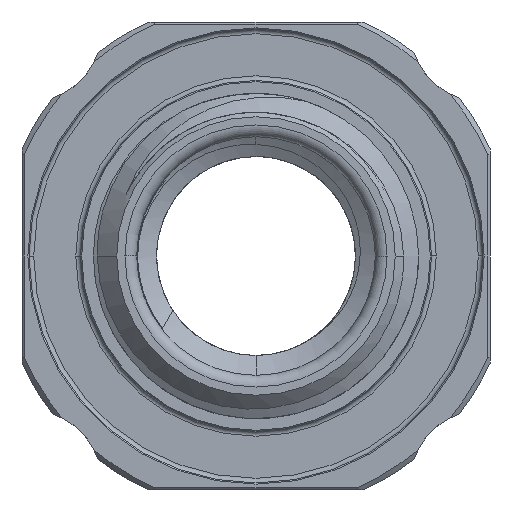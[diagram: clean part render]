
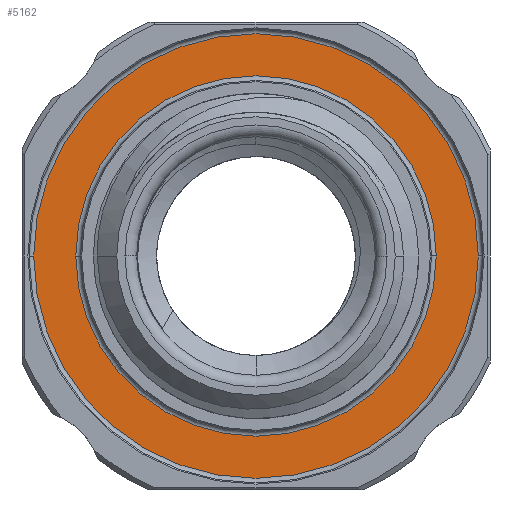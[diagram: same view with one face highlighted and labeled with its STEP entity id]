
A CAD part, front view. The second image highlights one B-rep face of the part: STEP entity #5162.
In plain terms, the highlighted planar face has unit normal (0, -1, 0).
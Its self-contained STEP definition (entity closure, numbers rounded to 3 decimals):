
#61 = CIRCLE ( 'NONE', #2581, 9.5 ) ;
#96 = DIRECTION ( 'NONE',  ( -1., 0., 0. ) ) ;
#101 = CIRCLE ( 'NONE', #405, 7.7 ) ;
#405 = AXIS2_PLACEMENT_3D ( 'NONE', #1389, #9664, #9713 ) ;
#1389 = CARTESIAN_POINT ( 'NONE',  ( 0., 26.25, 0. ) ) ;
#1532 = DIRECTION ( 'NONE',  ( 0., 1., 0. ) ) ;
#1674 = CARTESIAN_POINT ( 'NONE',  ( 0., 26.25, 0. ) ) ;
#2511 = EDGE_LOOP ( 'NONE', ( #3564, #7340 ) ) ;
#2581 = AXIS2_PLACEMENT_3D ( 'NONE', #6837, #1532, #96 ) ;
#2717 = DIRECTION ( 'NONE',  ( 0., -1., 0. ) ) ;
#3002 = CIRCLE ( 'NONE', #3631, 9.5 ) ;
#3048 = CARTESIAN_POINT ( 'NONE',  ( -9.5, 26.25, 0. ) ) ;
#3564 = ORIENTED_EDGE ( 'NONE', *, *, #9375, .T. ) ;
#3631 = AXIS2_PLACEMENT_3D ( 'NONE', #1674, #6827, #6875 ) ;
#4002 = VERTEX_POINT ( 'NONE', #4787 ) ;
#4528 = CARTESIAN_POINT ( 'NONE',  ( 0., 26.25, 0. ) ) ;
#4787 = CARTESIAN_POINT ( 'NONE',  ( 9.5, 26.25, 0. ) ) ;
#4935 = FACE_BOUND ( 'NONE', #2511, .T. ) ;
#5162 = ADVANCED_FACE ( 'NONE', ( #4935, #7926 ), #9316, .T. ) ;
#5277 = CARTESIAN_POINT ( 'NONE',  ( 7.7, 26.25, 0. ) ) ;
#5292 = ORIENTED_EDGE ( 'NONE', *, *, #7482, .F. ) ;
#5527 = DIRECTION ( 'NONE',  ( 1., 0., 0. ) ) ;
#5571 = CARTESIAN_POINT ( 'NONE',  ( -7.7, 26.25, 0. ) ) ;
#5897 = DIRECTION ( 'NONE',  ( 0., 1., 0. ) ) ;
#6424 = AXIS2_PLACEMENT_3D ( 'NONE', #5571, #2717, #5527 ) ;
#6462 = EDGE_CURVE ( 'NONE', #9619, #4002, #3002, .T. ) ;
#6546 = AXIS2_PLACEMENT_3D ( 'NONE', #4528, #5897, #7512 ) ;
#6825 = CARTESIAN_POINT ( 'NONE',  ( -7.7, 26.25, 0. ) ) ;
#6827 = DIRECTION ( 'NONE',  ( 0., 1., 0. ) ) ;
#6837 = CARTESIAN_POINT ( 'NONE',  ( 0., 26.25, 0. ) ) ;
#6875 = DIRECTION ( 'NONE',  ( -1., 0., 0. ) ) ;
#7340 = ORIENTED_EDGE ( 'NONE', *, *, #9183, .T. ) ;
#7457 = VERTEX_POINT ( 'NONE', #5277 ) ;
#7482 = EDGE_CURVE ( 'NONE', #4002, #9619, #61, .T. ) ;
#7494 = EDGE_LOOP ( 'NONE', ( #8112, #5292 ) ) ;
#7512 = DIRECTION ( 'NONE',  ( -1., 0., 0. ) ) ;
#7926 = FACE_OUTER_BOUND ( 'NONE', #7494, .T. ) ;
#8112 = ORIENTED_EDGE ( 'NONE', *, *, #6462, .F. ) ;
#8309 = VERTEX_POINT ( 'NONE', #6825 ) ;
#9183 = EDGE_CURVE ( 'NONE', #7457, #8309, #101, .T. ) ;
#9316 = PLANE ( 'NONE',  #6424 ) ;
#9375 = EDGE_CURVE ( 'NONE', #8309, #7457, #9545, .T. ) ;
#9545 = CIRCLE ( 'NONE', #6546, 7.7 ) ;
#9619 = VERTEX_POINT ( 'NONE', #3048 ) ;
#9664 = DIRECTION ( 'NONE',  ( 0., 1., 0. ) ) ;
#9713 = DIRECTION ( 'NONE',  ( -1., 0., 0. ) ) ;
